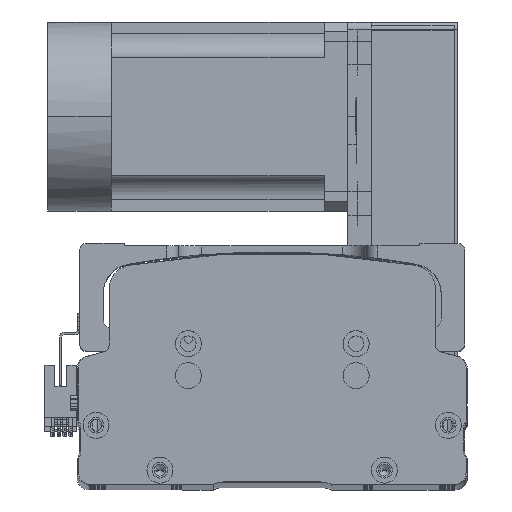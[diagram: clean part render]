
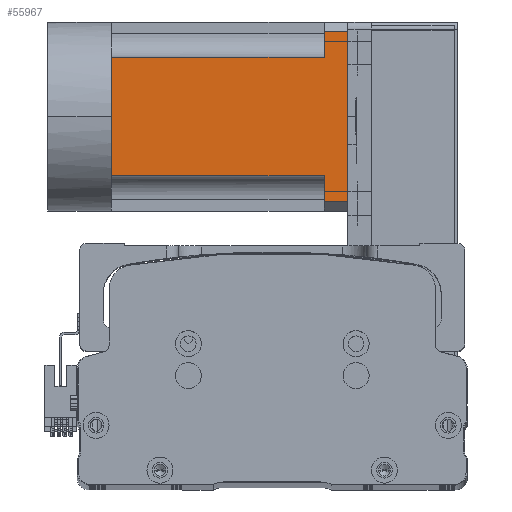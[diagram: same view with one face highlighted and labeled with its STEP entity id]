
A CAD part, top view. The second image highlights one B-rep face of the part: STEP entity #55967.
In plain terms, the highlighted planar face has unit normal (0, 0, 1) as drawn and (0, 0, -1) by its records, which use the part's own axes.
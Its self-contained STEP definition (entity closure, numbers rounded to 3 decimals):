
#1239 = EDGE_LOOP ( 'NONE', ( #35429, #29345, #4876, #54096, #37452, #20853, #57392, #5765, #58171 ) ) ;
#2095 = AXIS2_PLACEMENT_3D ( 'NONE', #43007, #12502, #48146 ) ;
#2252 = PLANE ( 'NONE',  #2095 ) ;
#3171 = CARTESIAN_POINT ( 'NONE',  ( 36., 100., -40. ) ) ;
#4876 = ORIENTED_EDGE ( 'NONE', *, *, #35797, .T. ) ;
#5202 = VECTOR ( 'NONE', #50486, 1000. ) ;
#5765 = ORIENTED_EDGE ( 'NONE', *, *, #9618, .T. ) ;
#6566 = VERTEX_POINT ( 'NONE', #32455 ) ;
#6817 = CARTESIAN_POINT ( 'NONE',  ( -40., 0., -40. ) ) ;
#9184 = DIRECTION ( 'NONE',  ( 0., 1., 0. ) ) ;
#9319 = LINE ( 'NONE', #12140, #37995 ) ;
#9618 = EDGE_CURVE ( 'NONE', #40659, #6566, #55347, .T. ) ;
#10327 = VERTEX_POINT ( 'NONE', #55061 ) ;
#12140 = CARTESIAN_POINT ( 'NONE',  ( 25., -27., -40. ) ) ;
#12502 = DIRECTION ( 'NONE',  ( 0., 0., -1. ) ) ;
#15082 = VECTOR ( 'NONE', #22500, 1000. ) ;
#16558 = CARTESIAN_POINT ( 'NONE',  ( -25., 90., -40. ) ) ;
#16732 = LINE ( 'NONE', #43203, #55786 ) ;
#17289 = VERTEX_POINT ( 'NONE', #31868 ) ;
#18036 = DIRECTION ( 'NONE',  ( 0., 1., 0. ) ) ;
#18201 = EDGE_CURVE ( 'NONE', #29443, #55240, #32305, .T. ) ;
#19044 = VECTOR ( 'NONE', #23878, 1000. ) ;
#19487 = CARTESIAN_POINT ( 'NONE',  ( -40., 100., -40. ) ) ;
#19958 = CARTESIAN_POINT ( 'NONE',  ( 36., -27., -40. ) ) ;
#20853 = ORIENTED_EDGE ( 'NONE', *, *, #61000, .T. ) ;
#21934 = DIRECTION ( 'NONE',  ( -1., 0., 0. ) ) ;
#22096 = LINE ( 'NONE', #6817, #35661 ) ;
#22500 = DIRECTION ( 'NONE',  ( -1., 0., 0. ) ) ;
#22601 = DIRECTION ( 'NONE',  ( -1., 0., 0. ) ) ;
#23878 = DIRECTION ( 'NONE',  ( -1., 0., 0. ) ) ;
#24109 = CARTESIAN_POINT ( 'NONE',  ( -40., 90., -40. ) ) ;
#29345 = ORIENTED_EDGE ( 'NONE', *, *, #18201, .T. ) ;
#29372 = VECTOR ( 'NONE', #9184, 1000. ) ;
#29443 = VERTEX_POINT ( 'NONE', #3171 ) ;
#29736 = DIRECTION ( 'NONE',  ( -1., 0., 0. ) ) ;
#31435 = VECTOR ( 'NONE', #22601, 1000. ) ;
#31709 = VERTEX_POINT ( 'NONE', #45862 ) ;
#31868 = CARTESIAN_POINT ( 'NONE',  ( 25., 0., -40. ) ) ;
#32305 = LINE ( 'NONE', #19958, #5202 ) ;
#32455 = CARTESIAN_POINT ( 'NONE',  ( -36., 90., -40. ) ) ;
#34178 = LINE ( 'NONE', #60040, #29372 ) ;
#35429 = ORIENTED_EDGE ( 'NONE', *, *, #51886, .F. ) ;
#35661 = VECTOR ( 'NONE', #21934, 1000. ) ;
#35797 = EDGE_CURVE ( 'NONE', #55240, #31709, #46098, .T. ) ;
#35832 = EDGE_CURVE ( 'NONE', #6566, #10327, #34178, .T. ) ;
#37452 = ORIENTED_EDGE ( 'NONE', *, *, #43803, .T. ) ;
#37995 = VECTOR ( 'NONE', #42643, 1000. ) ;
#39812 = EDGE_CURVE ( 'NONE', #31709, #17289, #9319, .T. ) ;
#40247 = VECTOR ( 'NONE', #29736, 1000. ) ;
#40572 = FACE_OUTER_BOUND ( 'NONE', #1239, .T. ) ;
#40659 = VERTEX_POINT ( 'NONE', #16558 ) ;
#42643 = DIRECTION ( 'NONE',  ( 0., -1., 0. ) ) ;
#43007 = CARTESIAN_POINT ( 'NONE',  ( -40., -27., -40. ) ) ;
#43203 = CARTESIAN_POINT ( 'NONE',  ( -25., -27., -40. ) ) ;
#43803 = EDGE_CURVE ( 'NONE', #17289, #65581, #55758, .T. ) ;
#45862 = CARTESIAN_POINT ( 'NONE',  ( 25., 90., -40. ) ) ;
#46098 = LINE ( 'NONE', #24109, #19044 ) ;
#47926 = CARTESIAN_POINT ( 'NONE',  ( -40., 0., -40. ) ) ;
#48029 = CARTESIAN_POINT ( 'NONE',  ( -40., 90., -40. ) ) ;
#48146 = DIRECTION ( 'NONE',  ( -1., 0., 0. ) ) ;
#50045 = CARTESIAN_POINT ( 'NONE',  ( 36., 90., -40. ) ) ;
#50486 = DIRECTION ( 'NONE',  ( 0., -1., 0. ) ) ;
#51886 = EDGE_CURVE ( 'NONE', #29443, #10327, #53809, .T. ) ;
#53373 = CARTESIAN_POINT ( 'NONE',  ( 0., 0., -40. ) ) ;
#53809 = LINE ( 'NONE', #19487, #40247 ) ;
#54096 = ORIENTED_EDGE ( 'NONE', *, *, #39812, .T. ) ;
#55061 = CARTESIAN_POINT ( 'NONE',  ( -36., 100., -40. ) ) ;
#55240 = VERTEX_POINT ( 'NONE', #50045 ) ;
#55347 = LINE ( 'NONE', #48029, #31435 ) ;
#55758 = LINE ( 'NONE', #47926, #15082 ) ;
#55786 = VECTOR ( 'NONE', #18036, 1000. ) ;
#55967 = ADVANCED_FACE ( 'NONE', ( #40572 ), #2252, .T. ) ;
#57392 = ORIENTED_EDGE ( 'NONE', *, *, #65011, .T. ) ;
#57933 = CARTESIAN_POINT ( 'NONE',  ( -25., 0., -40. ) ) ;
#58171 = ORIENTED_EDGE ( 'NONE', *, *, #35832, .T. ) ;
#60040 = CARTESIAN_POINT ( 'NONE',  ( -36., -27., -40. ) ) ;
#61000 = EDGE_CURVE ( 'NONE', #65581, #64920, #22096, .T. ) ;
#64920 = VERTEX_POINT ( 'NONE', #57933 ) ;
#65011 = EDGE_CURVE ( 'NONE', #64920, #40659, #16732, .T. ) ;
#65581 = VERTEX_POINT ( 'NONE', #53373 ) ;
